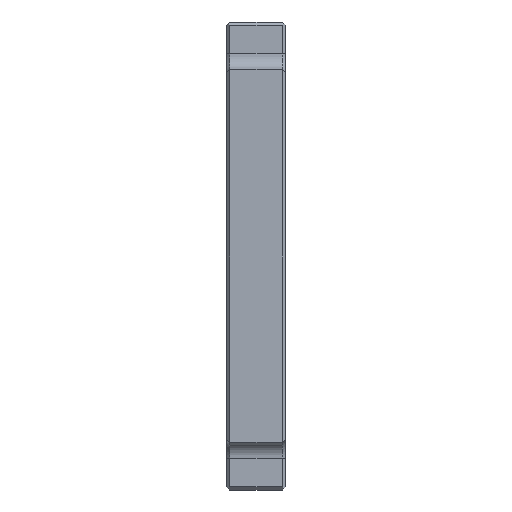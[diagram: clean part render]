
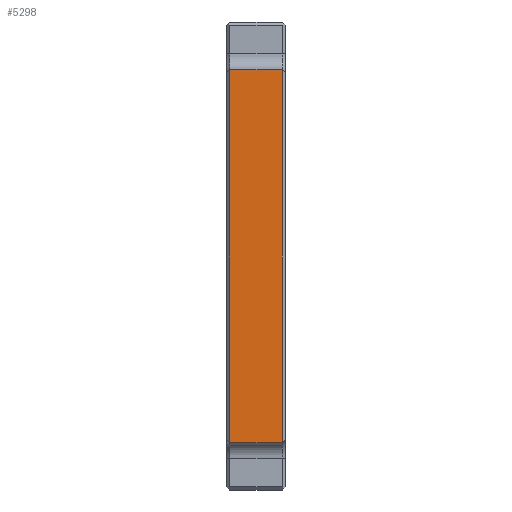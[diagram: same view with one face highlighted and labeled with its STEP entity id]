
A CAD part, left-side view. The second image highlights one B-rep face of the part: STEP entity #5298.
In plain terms, the highlighted planar face has unit normal (-1, 0, 0).
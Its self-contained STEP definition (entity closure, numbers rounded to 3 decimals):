
#1001=DIRECTION('',(0.,0.,-1.));
#1002=VECTOR('',#1001,60.706);
#1003=CARTESIAN_POINT('',(-179.981,49.033,38.94));
#1004=LINE('',#1003,#1002);
#1005=DIRECTION('',(0.,0.,1.));
#1006=VECTOR('',#1005,60.706);
#1007=CARTESIAN_POINT('',(-179.981,57.558,
-21.766));
#1008=LINE('',#1007,#1006);
#1009=DIRECTION('',(0.,-1.,0.));
#1010=VECTOR('',#1009,8.525);
#1011=CARTESIAN_POINT('',(-179.981,57.558,38.94));
#1012=LINE('',#1011,#1010);
#1167=DIRECTION('',(0.,1.,0.));
#1168=VECTOR('',#1167,8.525);
#1169=CARTESIAN_POINT('',(-179.981,49.033,
-21.766));
#1170=LINE('',#1169,#1168);
#4009=CARTESIAN_POINT('',(-179.981,49.033,38.94));
#4011=VERTEX_POINT('',#4009);
#4024=CARTESIAN_POINT('',(-179.981,49.033,
-21.766));
#4025=VERTEX_POINT('',#4024);
#4073=CARTESIAN_POINT('',(-179.981,57.558,38.94));
#4075=VERTEX_POINT('',#4073);
#4116=CARTESIAN_POINT('',(-179.981,57.558,
-21.766));
#4118=VERTEX_POINT('',#4116);
#5284=CARTESIAN_POINT('',(-179.981,58.058,38.94));
#5285=DIRECTION('',(1.,0.,0.));
#5286=DIRECTION('',(0.,0.,-1.));
#5287=AXIS2_PLACEMENT_3D('',#5284,#5285,#5286);
#5288=PLANE('',#5287);
#5290=ORIENTED_EDGE('',*,*,#5289,.T.);
#5292=ORIENTED_EDGE('',*,*,#5291,.T.);
#5294=ORIENTED_EDGE('',*,*,#5293,.T.);
#5295=ORIENTED_EDGE('',*,*,#5275,.T.);
#5296=EDGE_LOOP('',(#5290,#5292,#5294,#5295));
#5297=FACE_OUTER_BOUND('',#5296,.F.);
#5298=ADVANCED_FACE('',(#5297),#5288,.F.);
#5275=EDGE_CURVE('',#4075,#4011,#1012,.T.);
#5289=EDGE_CURVE('',#4011,#4025,#1004,.T.);
#5291=EDGE_CURVE('',#4025,#4118,#1170,.T.);
#5293=EDGE_CURVE('',#4118,#4075,#1008,.T.);
